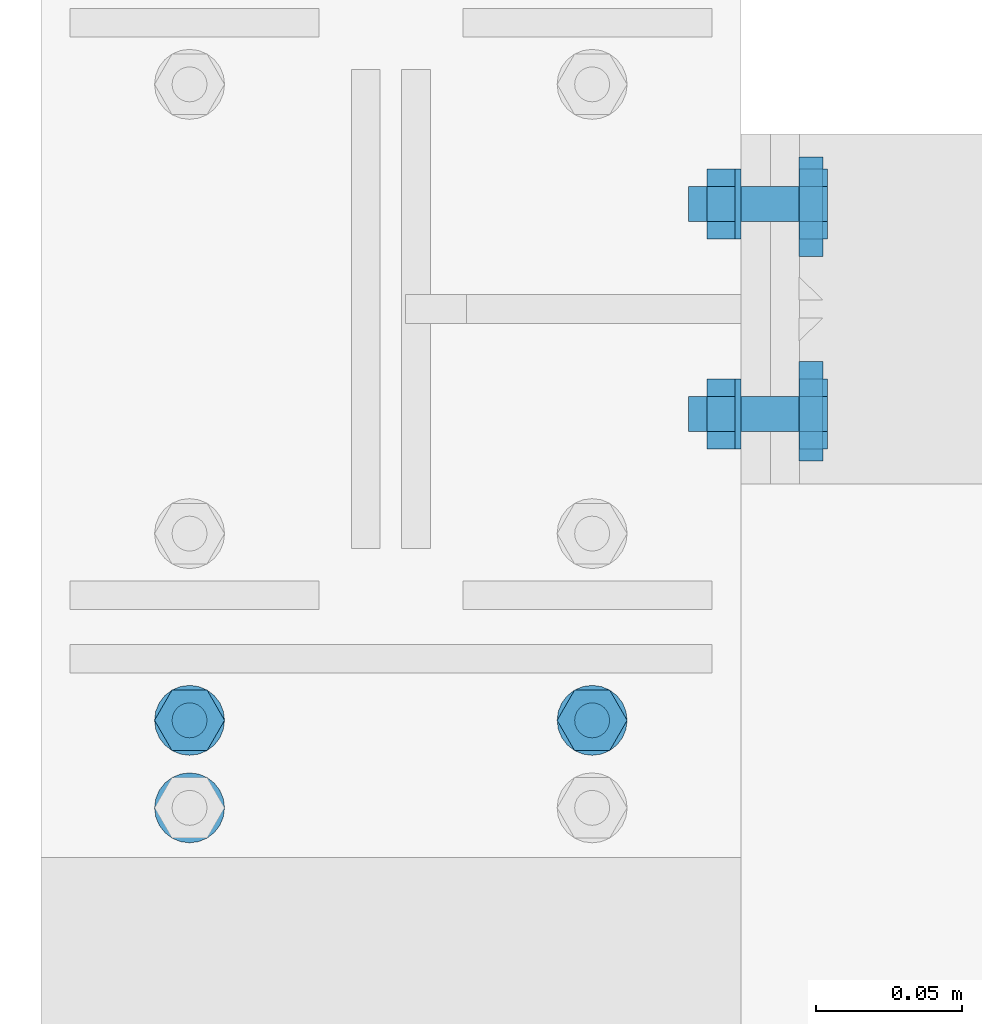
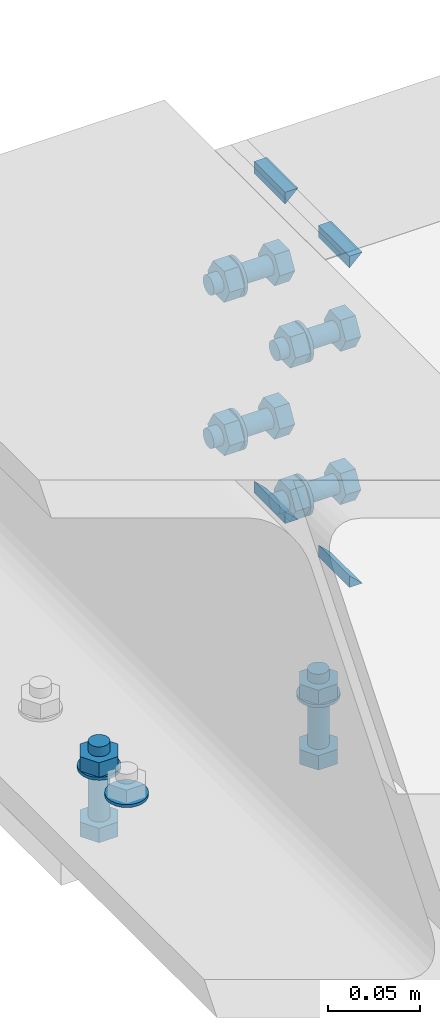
# One storey, part 42 of 66: 25 mechanical fasteners, 8 fasteners.
"""IFC4 building model written with IfcOpenShell, lengths in metres."""

from ifc_helpers import new_model, si_unit, frame, origin_with_axes, place, context, project, spatial, polyline, outline, extrude, type_object, element, save


model = new_model("IFC4")

# Units and contexts
model_context = context("Model", 3, precision=1e-05, world=origin_with_axes())
ifc_project = project(units=[si_unit("LENGTHUNIT", "METRE"), si_unit("AREAUNIT", "SQUARE_METRE"), si_unit("VOLUMEUNIT", "CUBIC_METRE"), si_unit("MASSUNIT", "GRAM", prefix="KILO"), si_unit("TIMEUNIT", "SECOND"), si_unit("PLANEANGLEUNIT", "RADIAN"), si_unit("SOLIDANGLEUNIT", "STERADIAN"), si_unit("THERMODYNAMICTEMPERATUREUNIT", "DEGREE_CELSIUS")], contexts=[model_context])

# Site, building, storey
placement_1 = place(None, origin_with_axes())
site = spatial("IfcSite", under=ifc_project, at=placement_1, Name="Italia", CompositionType="ELEMENT")
building = spatial("IfcBuilding", under=site, at=placement_1, Name="Uffici", CompositionType="ELEMENT")
storey_placement = place(None, frame((0.0, 0.0, 3.299999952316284), z_axis=(0.0, 0.0, 1.0), x_axis=(1.0, 0.0, 0.0)))
storey = spatial("IfcBuildingStorey", under=building, at=storey_placement, Name="Storey 1", CompositionType="ELEMENT", Elevation=3.299999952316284)

# Mechanical fasteners
mechanical_fastener_type_1 = type_object("IfcMechanicalFastenerType", Name="Collegamenti 0111_0011 0112_0012 0113_0013 0114_0014 0115_0015", PredefinedType="BOLT")
placement_2 = place(placement_1, origin_with_axes())
mechanical_fastener_1_placement = place(placement_2, origin_with_axes())
element("IfcMechanicalFastener", 1, at=mechanical_fastener_1_placement, inside=storey, type_object=mechanical_fastener_type_1, Name="Collegamenti 0111_0011 0112_0012 0113_0013 0114_0014 0115_0015", NominalDiameter=0.024, context=model_context, shape_type="SweptSolid", body=[
    extrude(outline(polyline([(0.0, 0.0), (-0.000409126, -0.00310583), (-0.00160789, -0.006), (-0.00351477, -0.00848528), (-0.00600004, -0.0103923), (-0.00889444, -0.0115911), (-0.0120001, -0.012), (-0.0151057, -0.0115911), (-0.0180001, -0.0103923), (-0.0204854, -0.00848528), (-0.0223923, -0.006), (-0.023591, -0.00310583), (-0.0240002, 0.0), (-0.023591, 0.00310583), (-0.0223923, 0.006), (-0.0204854, 0.00848528), (-0.0180001, 0.0103923), (-0.0151057, 0.0115911), (-0.0120001, 0.012), (-0.00889444, 0.0115911), (-0.00600004, 0.0103923), (-0.00351477, 0.00848528), (-0.00160789, 0.006), (-0.000409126, 0.00310583), (0.0, 0.0)])), frame((-0.069, 5.231, 3.079), z_axis=(0.0, 0.0, -1.0), x_axis=(0.0, 1.0, 0.0)), (0.0, 0.0, 1.0), 0.00200009),
])
mechanical_fastener_type_2 = type_object("IfcMechanicalFastenerType", Name="Collegamenti 0111_0011 0112_0012 0113_0013 0114_0014 0115_0015", PredefinedType="BOLT")
mechanical_fastener_2_placement = place(placement_2, origin_with_axes())
element("IfcMechanicalFastener", 2, at=mechanical_fastener_2_placement, inside=storey, type_object=mechanical_fastener_type_2, Name="Collegamenti 0111_0011 0112_0012 0113_0013 0114_0014 0115_0015", NominalDiameter=0.0119999, context=model_context, shape_type="SweptSolid", body=[
    extrude(outline(polyline([(0.0, 0.0), (0.0, 0.012), (0.0103927, 0.018), (0.0207849, 0.012), (0.0207849, 0.0), (0.0103927, -0.006), (0.0, 0.0)])), frame((0.063, 5.23861, 3.045), z_axis=(0.0, 0.0, -1.0), x_axis=(0.0, 1.0, 0.0)), (0.0, 0.0, 1.0), 0.00959992),
])
mechanical_fastener_type_3 = type_object("IfcMechanicalFastenerType", Name="Collegamenti 0111_0011 0112_0012 0113_0013 0114_0014 0115_0015", PredefinedType="BOLT")
mechanical_fastener_3_placement = place(placement_2, origin_with_axes())
element("IfcMechanicalFastener", 3, at=mechanical_fastener_3_placement, inside=storey, type_object=mechanical_fastener_type_3, Name="Collegamenti 0111_0011 0112_0012 0113_0013 0114_0014 0115_0015", NominalDiameter=0.012, context=model_context, shape_type="SweptSolid", body=[
    extrude(outline(polyline([(0.0, 0.0), (-0.000204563, -0.00155292), (-0.000803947, -0.003), (-0.00175762, -0.00424264), (-0.00300026, -0.00519615), (-0.00444698, -0.00579555), (-0.00600004, -0.006), (-0.0075531, -0.00579555), (-0.00899982, -0.00519615), (-0.0102425, -0.00424264), (-0.0111961, -0.003), (-0.0117955, -0.00155292), (-0.0120001, 0.0), (-0.0117955, 0.00155292), (-0.0111961, 0.003), (-0.0102425, 0.00424264), (-0.00899982, 0.00519615), (-0.0075531, 0.00579555), (-0.00600004, 0.006), (-0.00444698, 0.00579555), (-0.00300026, 0.00519615), (-0.00175762, 0.00424264), (-0.000803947, 0.003), (-0.000204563, 0.00155291), (0.0, 0.0)])), frame((0.069, 5.255, 3.095), z_axis=(0.0, 0.0, -1.0), x_axis=(0.0, 1.0, 0.0)), (0.0, 0.0, 1.0), 0.0500002),
])
mechanical_fastener_type_4 = type_object("IfcMechanicalFastenerType", Name="Collegamenti 0111_0011 0112_0012 0113_0013 0114_0014 0115_0015", PredefinedType="BOLT")
mechanical_fastener_4_placement = place(placement_2, origin_with_axes())
element("IfcMechanicalFastener", 4, at=mechanical_fastener_4_placement, inside=storey, type_object=mechanical_fastener_type_4, Name="Collegamenti 0111_0011 0112_0012 0113_0013 0114_0014 0115_0015", NominalDiameter=0.0119999, context=model_context, shape_type="SweptSolid", body=[
    extrude(outline(polyline([(0.0, 0.0), (0.0, 0.012), (0.0103927, 0.018), (0.0207849, 0.012), (0.0207849, 0.0), (0.0103927, -0.006), (0.0, 0.0)])), frame((0.063, 5.23861, 3.0886), z_axis=(0.0, 0.0, -1.0), x_axis=(0.0, 1.0, 0.0)), (0.0, 0.0, 1.0), 0.00959992),
])
mechanical_fastener_type_5 = type_object("IfcMechanicalFastenerType", Name="Collegamenti 0111_0011 0112_0012 0113_0013 0114_0014 0115_0015", PredefinedType="BOLT")
mechanical_fastener_5_placement = place(placement_2, origin_with_axes())
element("IfcMechanicalFastener", 5, at=mechanical_fastener_5_placement, inside=storey, type_object=mechanical_fastener_type_5, Name="Collegamenti 0111_0011 0112_0012 0113_0013 0114_0014 0115_0015", NominalDiameter=0.024, context=model_context, shape_type="SweptSolid", body=[
    extrude(outline(polyline([(0.0, 0.0), (-0.000409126, -0.00310583), (-0.00160789, -0.006), (-0.00351477, -0.00848528), (-0.00600004, -0.0103923), (-0.00889444, -0.0115911), (-0.0120001, -0.012), (-0.0151057, -0.0115911), (-0.0180001, -0.0103923), (-0.0204854, -0.00848528), (-0.0223923, -0.006), (-0.023591, -0.00310583), (-0.0240002, 0.0), (-0.023591, 0.00310583), (-0.0223923, 0.006), (-0.0204854, 0.00848528), (-0.0180001, 0.0103923), (-0.0151057, 0.0115911), (-0.0120001, 0.012), (-0.00889444, 0.0115911), (-0.00600004, 0.0103923), (-0.00351477, 0.00848528), (-0.00160789, 0.006), (-0.000409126, 0.00310583), (0.0, 0.0)])), frame((0.069, 5.261, 3.079), z_axis=(0.0, 0.0, -1.0), x_axis=(0.0, 1.0, 0.0)), (0.0, 0.0, 1.0), 0.00200009),
])
mechanical_fastener_type_6 = type_object("IfcMechanicalFastenerType", Name="Collegamenti 0111_0011 0112_0012 0113_0013 0114_0014 0115_0015", PredefinedType="BOLT")
mechanical_fastener_6_placement = place(placement_2, origin_with_axes())
element("IfcMechanicalFastener", 6, at=mechanical_fastener_6_placement, inside=storey, type_object=mechanical_fastener_type_6, Name="Collegamenti 0111_0011 0112_0012 0113_0013 0114_0014 0115_0015", NominalDiameter=0.0119999, context=model_context, shape_type="SweptSolid", body=[
    extrude(outline(polyline([(0.0, 0.0), (0.0, 0.012), (0.0103927, 0.018), (0.0207849, 0.012), (0.0207849, 0.0), (0.0103927, -0.006), (0.0, 0.0)])), frame((-0.075, 5.23861, 3.045), z_axis=(0.0, 0.0, -1.0), x_axis=(0.0, 1.0, 0.0)), (0.0, 0.0, 1.0), 0.00959992),
])
mechanical_fastener_type_7 = type_object("IfcMechanicalFastenerType", Name="Collegamenti 0111_0011 0112_0012 0113_0013 0114_0014 0115_0015", PredefinedType="BOLT")
mechanical_fastener_7_placement = place(placement_2, origin_with_axes())
element("IfcMechanicalFastener", 7, at=mechanical_fastener_7_placement, inside=storey, type_object=mechanical_fastener_type_7, Name="Collegamenti 0111_0011 0112_0012 0113_0013 0114_0014 0115_0015", NominalDiameter=0.012, context=model_context, shape_type="SweptSolid", body=[
    extrude(outline(polyline([(0.0, 0.0), (-0.000204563, -0.00155292), (-0.000803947, -0.003), (-0.00175762, -0.00424264), (-0.00300026, -0.00519615), (-0.00444698, -0.00579555), (-0.00600004, -0.006), (-0.0075531, -0.00579555), (-0.00899982, -0.00519615), (-0.0102425, -0.00424264), (-0.0111961, -0.003), (-0.0117955, -0.00155292), (-0.0120001, 0.0), (-0.0117955, 0.00155292), (-0.0111961, 0.003), (-0.0102425, 0.00424264), (-0.00899982, 0.00519615), (-0.0075531, 0.00579555), (-0.00600004, 0.006), (-0.00444698, 0.00579555), (-0.00300026, 0.00519615), (-0.00175762, 0.00424264), (-0.000803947, 0.003), (-0.000204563, 0.00155291), (0.0, 0.0)])), frame((-0.069, 5.255, 3.095), z_axis=(0.0, 0.0, -1.0), x_axis=(0.0, 1.0, 0.0)), (0.0, 0.0, 1.0), 0.0500002),
])
mechanical_fastener_type_8 = type_object("IfcMechanicalFastenerType", Name="Collegamenti 0111_0011 0112_0012 0113_0013 0114_0014 0115_0015", PredefinedType="BOLT")
mechanical_fastener_8_placement = place(placement_2, origin_with_axes())
element("IfcMechanicalFastener", 8, at=mechanical_fastener_8_placement, inside=storey, type_object=mechanical_fastener_type_8, Name="Collegamenti 0111_0011 0112_0012 0113_0013 0114_0014 0115_0015", NominalDiameter=0.0119999, context=model_context, shape_type="SweptSolid", body=[
    extrude(outline(polyline([(0.0, 0.0), (0.0, 0.012), (0.0103927, 0.018), (0.0207849, 0.012), (0.0207849, 0.0), (0.0103927, -0.006), (0.0, 0.0)])), frame((-0.075, 5.23861, 3.0886), z_axis=(0.0, 0.0, -1.0), x_axis=(0.0, 1.0, 0.0)), (0.0, 0.0, 1.0), 0.00959992),
])
mechanical_fastener_type_9 = type_object("IfcMechanicalFastenerType", Name="Collegamenti 0111_0011 0112_0012 0113_0013 0114_0014 0115_0015", PredefinedType="BOLT")
mechanical_fastener_9_placement = place(placement_2, origin_with_axes())
element("IfcMechanicalFastener", 9, at=mechanical_fastener_9_placement, inside=storey, type_object=mechanical_fastener_type_9, Name="Collegamenti 0111_0011 0112_0012 0113_0013 0114_0014 0115_0015", NominalDiameter=0.024, context=model_context, shape_type="SweptSolid", body=[
    extrude(outline(polyline([(0.0, 0.0), (-0.000409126, -0.00310583), (-0.00160789, -0.006), (-0.00351477, -0.00848528), (-0.00600004, -0.0103923), (-0.00889444, -0.0115911), (-0.0120001, -0.012), (-0.0151057, -0.0115911), (-0.0180001, -0.0103923), (-0.0204854, -0.00848528), (-0.0223923, -0.006), (-0.023591, -0.00310583), (-0.0240002, 0.0), (-0.023591, 0.00310583), (-0.0223923, 0.006), (-0.0204854, 0.00848528), (-0.0180001, 0.0103923), (-0.0151057, 0.0115911), (-0.0120001, 0.012), (-0.00889444, 0.0115911), (-0.00600004, 0.0103923), (-0.00351477, 0.00848528), (-0.00160789, 0.006), (-0.000409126, 0.00310583), (0.0, 0.0)])), frame((-0.069, 5.261, 3.079), z_axis=(0.0, 0.0, -1.0), x_axis=(0.0, 1.0, 0.0)), (0.0, 0.0, 1.0), 0.00200009),
])

# Fasteners
fastener_type_1 = type_object("IfcFastenerType", Name="Collegamento 0111_0112", PredefinedType="WELD")
fastener_1_placement = place(placement_2, origin_with_axes())
element("IfcFastener", 10, at=fastener_1_placement, inside=storey, type_object=fastener_type_1, Name="Collegamento 0111_0112", context=model_context, shape_type="SweptSolid", body=[
    extrude(outline(polyline([(0.0, 0.0), (-0.00817336, 0.00792813), (0.0, 0.00792813), (0.0, 0.0)])), frame((0.13995, 5.33795, 3.28232), z_axis=(0.0, 1.0, 0.0), x_axis=(-1.0, 0.0, 0.0)), (0.0, 0.0, 1.0), 0.0340004),
])
fastener_type_2 = type_object("IfcFastenerType", Name="Collegamento 0111_0112", PredefinedType="WELD")
fastener_2_placement = place(placement_2, origin_with_axes())
element("IfcFastener", 11, at=fastener_2_placement, inside=storey, type_object=fastener_type_2, Name="Collegamento 0111_0112", context=model_context, shape_type="SweptSolid", body=[
    extrude(outline(polyline([(0.0, 0.0), (0.00817336, -0.00792813), (0.0, -0.00792813), (0.0, 0.0)])), frame((0.13995, 5.37195, 3.07768), z_axis=(0.0, -1.0, 0.0), x_axis=(1.0, 0.0, 0.0)), (0.0, 0.0, 1.0), 0.0340004),
])
fastener_type_3 = type_object("IfcFastenerType", Name="Collegamento 0111_0112", PredefinedType="WELD")
fastener_3_placement = place(placement_2, origin_with_axes())
element("IfcFastener", 12, at=fastener_3_placement, inside=storey, type_object=fastener_type_3, Name="Collegamento 0111_0112", context=model_context, shape_type="SweptSolid", body=[
    extrude(outline(polyline([(0.0, 0.0), (0.00817336, -0.00792813), (0.0, -0.00792813), (0.0, 0.0)])), frame((0.13995, 5.44205, 3.07768), z_axis=(0.0, -1.0, 0.0), x_axis=(1.0, 0.0, 0.0)), (0.0, 0.0, 1.0), 0.0340004),
])
fastener_type_4 = type_object("IfcFastenerType", Name="Collegamento 0111_0112", PredefinedType="WELD")
fastener_4_placement = place(placement_2, origin_with_axes())
element("IfcFastener", 13, at=fastener_4_placement, inside=storey, type_object=fastener_type_4, Name="Collegamento 0111_0112", context=model_context, shape_type="SweptSolid", body=[
    extrude(outline(polyline([(0.0, 0.0), (-0.00817336, 0.00792813), (0.0, 0.00792813), (0.0, 0.0)])), frame((0.13995, 5.40805, 3.28232), z_axis=(0.0, 1.0, 0.0), x_axis=(-1.0, 0.0, 0.0)), (0.0, 0.0, 1.0), 0.0340004),
])
fastener_type_5 = type_object("IfcFastenerType", Name="Collegamento 0111_0112", PredefinedType="WELD")
fastener_5_placement = place(placement_2, origin_with_axes())
element("IfcFastener", 14, at=fastener_5_placement, inside=storey, type_object=fastener_type_5, Name="Collegamento 0111_0112", context=model_context, shape_type="SweptSolid", body=[
    extrude(outline(polyline([(0.0, 0.0), (-0.00817336, 0.00792813), (0.0, 0.00792813), (0.0, 0.0)])), frame((0.13995, 5.33795, 3.28232), z_axis=(0.0, 1.0, 0.0), x_axis=(-1.0, 0.0, 0.0)), (0.0, 0.0, 1.0), 0.0340004),
])
fastener_type_6 = type_object("IfcFastenerType", Name="Collegamento 0111_0112", PredefinedType="WELD")
fastener_6_placement = place(placement_2, origin_with_axes())
element("IfcFastener", 15, at=fastener_6_placement, inside=storey, type_object=fastener_type_6, Name="Collegamento 0111_0112", context=model_context, shape_type="SweptSolid", body=[
    extrude(outline(polyline([(0.0, 0.0), (0.00817336, -0.00792813), (0.0, -0.00792813), (0.0, 0.0)])), frame((0.13995, 5.37195, 3.07768), z_axis=(0.0, -1.0, 0.0), x_axis=(1.0, 0.0, 0.0)), (0.0, 0.0, 1.0), 0.0340004),
])
fastener_type_7 = type_object("IfcFastenerType", Name="Collegamento 0111_0112", PredefinedType="WELD")
fastener_7_placement = place(placement_2, origin_with_axes())
element("IfcFastener", 16, at=fastener_7_placement, inside=storey, type_object=fastener_type_7, Name="Collegamento 0111_0112", context=model_context, shape_type="SweptSolid", body=[
    extrude(outline(polyline([(0.0, 0.0), (0.00817336, -0.00792813), (0.0, -0.00792813), (0.0, 0.0)])), frame((0.13995, 5.44205, 3.07768), z_axis=(0.0, -1.0, 0.0), x_axis=(1.0, 0.0, 0.0)), (0.0, 0.0, 1.0), 0.0340004),
])
fastener_type_8 = type_object("IfcFastenerType", Name="Collegamento 0111_0112", PredefinedType="WELD")
fastener_8_placement = place(placement_2, origin_with_axes())
element("IfcFastener", 17, at=fastener_8_placement, inside=storey, type_object=fastener_type_8, Name="Collegamento 0111_0112", context=model_context, shape_type="SweptSolid", body=[
    extrude(outline(polyline([(0.0, 0.0), (-0.00817336, 0.00792813), (0.0, 0.00792813), (0.0, 0.0)])), frame((0.13995, 5.40805, 3.28232), z_axis=(0.0, 1.0, 0.0), x_axis=(-1.0, 0.0, 0.0)), (0.0, 0.0, 1.0), 0.0340004),
])

# Mechanical fasteners
mechanical_fastener_type_10 = type_object("IfcMechanicalFastenerType", Name="Collegamento 0111_0112", PredefinedType="BOLT")
mechanical_fastener_10_placement = place(placement_2, origin_with_axes())
element("IfcMechanicalFastener", 18, at=mechanical_fastener_10_placement, inside=storey, type_object=mechanical_fastener_type_10, Name="Collegamento 0111_0112", NominalDiameter=0.0119996, context=model_context, shape_type="SweptSolid", body=[
    extrude(outline(polyline([(0.0, 0.0), (-0.0119996, 0.0), (-0.0179996, 0.0103922), (-0.0119996, 0.0207846), (0.0, 0.0207846), (0.00600004, 0.0103922), (0.0, 0.0)])), frame((0.14, 5.36, 3.11861), z_axis=(1.0, 0.0, 0.0), x_axis=(0.0, 1.0, 0.0)), (0.0, 0.0, 1.0), 0.0096),
])
mechanical_fastener_type_11 = type_object("IfcMechanicalFastenerType", Name="Collegamento 0111_0112", PredefinedType="BOLT")
mechanical_fastener_11_placement = place(placement_2, origin_with_axes())
element("IfcMechanicalFastener", 19, at=mechanical_fastener_11_placement, inside=storey, type_object=mechanical_fastener_type_11, Name="Collegamento 0111_0112", NominalDiameter=0.012, context=model_context, shape_type="SweptSolid", body=[
    extrude(outline(polyline([(0.0, 0.0), (-0.000204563, -0.00155282), (-0.000803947, -0.00300002), (-0.00175762, -0.00424266), (-0.00300026, -0.00519609), (-0.00444698, -0.00579548), (-0.00600004, -0.00600004), (-0.0075531, -0.00579548), (-0.00899982, -0.00519609), (-0.0102425, -0.00424266), (-0.0111961, -0.00300002), (-0.0117955, -0.00155282), (-0.0120001, 0.0), (-0.0117955, 0.00155282), (-0.0111961, 0.00300002), (-0.0102425, 0.00424266), (-0.00899982, 0.00519609), (-0.0075531, 0.00579548), (-0.00600004, 0.00600004), (-0.00444698, 0.00579548), (-0.00300026, 0.00519609), (-0.00175762, 0.00424266), (-0.000803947, 0.00300002), (-0.000204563, 0.00155282), (0.0, 0.0)])), frame((0.102, 5.36, 3.129), z_axis=(1.0, 0.0, 0.0), x_axis=(0.0, 1.0, 0.0)), (0.0, 0.0, 1.0), 0.038),
])
mechanical_fastener_type_12 = type_object("IfcMechanicalFastenerType", Name="Collegamento 0111_0112", PredefinedType="BOLT")
mechanical_fastener_12_placement = place(placement_2, origin_with_axes())
element("IfcMechanicalFastener", 20, at=mechanical_fastener_12_placement, inside=storey, type_object=mechanical_fastener_type_12, Name="Collegamento 0111_0112", NominalDiameter=0.0119996, context=model_context, shape_type="SweptSolid", body=[
    extrude(outline(polyline([(0.0, 0.0), (-0.0119996, 0.0), (-0.0179996, 0.0103922), (-0.0119996, 0.0207846), (0.0, 0.0207846), (0.00600004, 0.0103922), (0.0, 0.0)])), frame((0.1084, 5.36, 3.11861), z_axis=(1.0, 0.0, 0.0), x_axis=(0.0, 1.0, 0.0)), (0.0, 0.0, 1.0), 0.00960001),
])
mechanical_fastener_type_13 = type_object("IfcMechanicalFastenerType", Name="Collegamento 0111_0112", PredefinedType="BOLT")
mechanical_fastener_13_placement = place(placement_2, origin_with_axes())
element("IfcMechanicalFastener", 21, at=mechanical_fastener_13_placement, inside=storey, type_object=mechanical_fastener_type_13, Name="Collegamento 0111_0112", NominalDiameter=0.024, context=model_context, shape_type="SweptSolid", body=[
    extrude(outline(polyline([(0.0, 0.0), (-0.000409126, -0.00310588), (-0.00160789, -0.00600004), (-0.00351477, -0.00848532), (-0.00600004, -0.0103922), (-0.00889444, -0.0115912), (-0.0120001, -0.0120001), (-0.0151057, -0.0115912), (-0.0180001, -0.0103922), (-0.0204854, -0.00848532), (-0.0223923, -0.00600004), (-0.023591, -0.00310588), (-0.0240002, 0.0), (-0.023591, 0.00310588), (-0.0223923, 0.00600004), (-0.0204854, 0.00848532), (-0.0180001, 0.0103922), (-0.0151057, 0.0115912), (-0.0120001, 0.0120001), (-0.00889444, 0.0115912), (-0.00600004, 0.0103922), (-0.00351477, 0.00848532), (-0.00160789, 0.00600004), (-0.000409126, 0.00310588), (0.0, 0.0)])), frame((0.118, 5.366, 3.129), z_axis=(1.0, 0.0, 0.0), x_axis=(0.0, 1.0, 0.0)), (0.0, 0.0, 1.0), 0.002),
])
mechanical_fastener_type_14 = type_object("IfcMechanicalFastenerType", Name="Collegamento 0111_0112", PredefinedType="BOLT")
mechanical_fastener_14_placement = place(placement_2, origin_with_axes())
element("IfcMechanicalFastener", 22, at=mechanical_fastener_14_placement, inside=storey, type_object=mechanical_fastener_type_14, Name="Collegamento 0111_0112", NominalDiameter=0.0119996, context=model_context, shape_type="SweptSolid", body=[
    extrude(outline(polyline([(0.0, 0.0), (-0.0119996, 0.0), (-0.0179996, 0.0103922), (-0.0119996, 0.0207846), (0.0, 0.0207846), (0.00600004, 0.0103922), (0.0, 0.0)])), frame((0.14, 5.432, 3.11861), z_axis=(1.0, 0.0, 0.0), x_axis=(0.0, 1.0, 0.0)), (0.0, 0.0, 1.0), 0.0096),
])
mechanical_fastener_type_15 = type_object("IfcMechanicalFastenerType", Name="Collegamento 0111_0112", PredefinedType="BOLT")
mechanical_fastener_15_placement = place(placement_2, origin_with_axes())
element("IfcMechanicalFastener", 23, at=mechanical_fastener_15_placement, inside=storey, type_object=mechanical_fastener_type_15, Name="Collegamento 0111_0112", NominalDiameter=0.012, context=model_context, shape_type="SweptSolid", body=[
    extrude(outline(polyline([(0.0, 0.0), (-0.000204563, -0.00155282), (-0.000803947, -0.00300002), (-0.00175762, -0.00424266), (-0.00300026, -0.00519609), (-0.00444698, -0.00579548), (-0.00600004, -0.00600004), (-0.0075531, -0.00579548), (-0.00899982, -0.00519609), (-0.0102425, -0.00424266), (-0.0111961, -0.00300002), (-0.0117955, -0.00155282), (-0.0120001, 0.0), (-0.0117955, 0.00155282), (-0.0111961, 0.00300002), (-0.0102425, 0.00424266), (-0.00899982, 0.00519609), (-0.0075531, 0.00579548), (-0.00600004, 0.00600004), (-0.00444698, 0.00579548), (-0.00300026, 0.00519609), (-0.00175762, 0.00424266), (-0.000803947, 0.00300002), (-0.000204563, 0.00155282), (0.0, 0.0)])), frame((0.102, 5.432, 3.129), z_axis=(1.0, 0.0, 0.0), x_axis=(0.0, 1.0, 0.0)), (0.0, 0.0, 1.0), 0.038),
])
mechanical_fastener_type_16 = type_object("IfcMechanicalFastenerType", Name="Collegamento 0111_0112", PredefinedType="BOLT")
mechanical_fastener_16_placement = place(placement_2, origin_with_axes())
element("IfcMechanicalFastener", 24, at=mechanical_fastener_16_placement, inside=storey, type_object=mechanical_fastener_type_16, Name="Collegamento 0111_0112", NominalDiameter=0.0119996, context=model_context, shape_type="SweptSolid", body=[
    extrude(outline(polyline([(0.0, 0.0), (-0.0119996, 0.0), (-0.0179996, 0.0103922), (-0.0119996, 0.0207846), (0.0, 0.0207846), (0.00600004, 0.0103922), (0.0, 0.0)])), frame((0.1084, 5.432, 3.11861), z_axis=(1.0, 0.0, 0.0), x_axis=(0.0, 1.0, 0.0)), (0.0, 0.0, 1.0), 0.00960001),
])
mechanical_fastener_type_17 = type_object("IfcMechanicalFastenerType", Name="Collegamento 0111_0112", PredefinedType="BOLT")
mechanical_fastener_17_placement = place(placement_2, origin_with_axes())
element("IfcMechanicalFastener", 25, at=mechanical_fastener_17_placement, inside=storey, type_object=mechanical_fastener_type_17, Name="Collegamento 0111_0112", NominalDiameter=0.024, context=model_context, shape_type="SweptSolid", body=[
    extrude(outline(polyline([(0.0, 0.0), (-0.000409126, -0.00310588), (-0.00160789, -0.00600004), (-0.00351477, -0.00848532), (-0.00600004, -0.0103922), (-0.00889444, -0.0115912), (-0.0120001, -0.0120001), (-0.0151057, -0.0115912), (-0.0180001, -0.0103922), (-0.0204854, -0.00848532), (-0.0223923, -0.00600004), (-0.023591, -0.00310588), (-0.0240002, 0.0), (-0.023591, 0.00310588), (-0.0223923, 0.00600004), (-0.0204854, 0.00848532), (-0.0180001, 0.0103922), (-0.0151057, 0.0115912), (-0.0120001, 0.0120001), (-0.00889444, 0.0115912), (-0.00600004, 0.0103922), (-0.00351477, 0.00848532), (-0.00160789, 0.00600004), (-0.000409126, 0.00310588), (0.0, 0.0)])), frame((0.118, 5.438, 3.129), z_axis=(1.0, 0.0, 0.0), x_axis=(0.0, 1.0, 0.0)), (0.0, 0.0, 1.0), 0.002),
])
mechanical_fastener_type_18 = type_object("IfcMechanicalFastenerType", Name="Collegamento 0111_0112", PredefinedType="BOLT")
mechanical_fastener_18_placement = place(placement_2, origin_with_axes())
element("IfcMechanicalFastener", 26, at=mechanical_fastener_18_placement, inside=storey, type_object=mechanical_fastener_type_18, Name="Collegamento 0111_0112", NominalDiameter=0.0119996, context=model_context, shape_type="SweptSolid", body=[
    extrude(outline(polyline([(0.0, 0.0), (-0.0119996, 0.0), (-0.0179996, 0.0103924), (-0.0119996, 0.0207846), (0.0, 0.0207846), (0.00600004, 0.0103924), (0.0, 0.0)])), frame((0.14, 5.36, 3.22061), z_axis=(1.0, 0.0, 0.0), x_axis=(0.0, 1.0, 0.0)), (0.0, 0.0, 1.0), 0.0096),
])
mechanical_fastener_type_19 = type_object("IfcMechanicalFastenerType", Name="Collegamento 0111_0112", PredefinedType="BOLT")
mechanical_fastener_19_placement = place(placement_2, origin_with_axes())
element("IfcMechanicalFastener", 27, at=mechanical_fastener_19_placement, inside=storey, type_object=mechanical_fastener_type_19, Name="Collegamento 0111_0112", NominalDiameter=0.012, context=model_context, shape_type="SweptSolid", body=[
    extrude(outline(polyline([(0.0, 0.0), (-0.000204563, -0.00155282), (-0.000803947, -0.00300002), (-0.00175762, -0.00424266), (-0.00300026, -0.00519609), (-0.00444698, -0.00579548), (-0.00600004, -0.00600004), (-0.0075531, -0.00579548), (-0.00899982, -0.00519609), (-0.0102425, -0.00424266), (-0.0111961, -0.00300002), (-0.0117955, -0.00155282), (-0.0120001, 0.0), (-0.0117955, 0.00155282), (-0.0111961, 0.00300002), (-0.0102425, 0.00424266), (-0.00899982, 0.00519609), (-0.0075531, 0.00579548), (-0.00600004, 0.00600004), (-0.00444698, 0.00579548), (-0.00300026, 0.00519609), (-0.00175762, 0.00424266), (-0.000803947, 0.00300002), (-0.000204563, 0.00155282), (0.0, 0.0)])), frame((0.102, 5.36, 3.231), z_axis=(1.0, 0.0, 0.0), x_axis=(0.0, 1.0, 0.0)), (0.0, 0.0, 1.0), 0.038),
])
mechanical_fastener_type_20 = type_object("IfcMechanicalFastenerType", Name="Collegamento 0111_0112", PredefinedType="BOLT")
mechanical_fastener_20_placement = place(placement_2, origin_with_axes())
element("IfcMechanicalFastener", 28, at=mechanical_fastener_20_placement, inside=storey, type_object=mechanical_fastener_type_20, Name="Collegamento 0111_0112", NominalDiameter=0.0119996, context=model_context, shape_type="SweptSolid", body=[
    extrude(outline(polyline([(0.0, 0.0), (-0.0119996, 0.0), (-0.0179996, 0.0103924), (-0.0119996, 0.0207846), (0.0, 0.0207846), (0.00600004, 0.0103924), (0.0, 0.0)])), frame((0.1084, 5.36, 3.22061), z_axis=(1.0, 0.0, 0.0), x_axis=(0.0, 1.0, 0.0)), (0.0, 0.0, 1.0), 0.00960001),
])
mechanical_fastener_type_21 = type_object("IfcMechanicalFastenerType", Name="Collegamento 0111_0112", PredefinedType="BOLT")
mechanical_fastener_21_placement = place(placement_2, origin_with_axes())
element("IfcMechanicalFastener", 29, at=mechanical_fastener_21_placement, inside=storey, type_object=mechanical_fastener_type_21, Name="Collegamento 0111_0112", NominalDiameter=0.024, context=model_context, shape_type="SweptSolid", body=[
    extrude(outline(polyline([(0.0, 0.0), (-0.000409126, -0.00310588), (-0.00160789, -0.00600004), (-0.00351477, -0.00848532), (-0.00600004, -0.0103922), (-0.00889444, -0.0115912), (-0.0120001, -0.0120001), (-0.0151057, -0.0115912), (-0.0180001, -0.0103922), (-0.0204854, -0.00848532), (-0.0223923, -0.00600004), (-0.023591, -0.00310588), (-0.0240002, 0.0), (-0.023591, 0.00310588), (-0.0223923, 0.00600004), (-0.0204854, 0.00848532), (-0.0180001, 0.0103922), (-0.0151057, 0.0115912), (-0.0120001, 0.0120001), (-0.00889444, 0.0115912), (-0.00600004, 0.0103922), (-0.00351477, 0.00848532), (-0.00160789, 0.00600004), (-0.000409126, 0.00310588), (0.0, 0.0)])), frame((0.118, 5.366, 3.231), z_axis=(1.0, 0.0, 0.0), x_axis=(0.0, 1.0, 0.0)), (0.0, 0.0, 1.0), 0.002),
])
mechanical_fastener_type_22 = type_object("IfcMechanicalFastenerType", Name="Collegamento 0111_0112", PredefinedType="BOLT")
mechanical_fastener_22_placement = place(placement_2, origin_with_axes())
element("IfcMechanicalFastener", 30, at=mechanical_fastener_22_placement, inside=storey, type_object=mechanical_fastener_type_22, Name="Collegamento 0111_0112", NominalDiameter=0.0119996, context=model_context, shape_type="SweptSolid", body=[
    extrude(outline(polyline([(0.0, 0.0), (-0.0119996, 0.0), (-0.0179996, 0.0103924), (-0.0119996, 0.0207846), (0.0, 0.0207846), (0.00600004, 0.0103924), (0.0, 0.0)])), frame((0.14, 5.432, 3.22061), z_axis=(1.0, 0.0, 0.0), x_axis=(0.0, 1.0, 0.0)), (0.0, 0.0, 1.0), 0.0096),
])
mechanical_fastener_type_23 = type_object("IfcMechanicalFastenerType", Name="Collegamento 0111_0112", PredefinedType="BOLT")
mechanical_fastener_23_placement = place(placement_2, origin_with_axes())
element("IfcMechanicalFastener", 31, at=mechanical_fastener_23_placement, inside=storey, type_object=mechanical_fastener_type_23, Name="Collegamento 0111_0112", NominalDiameter=0.012, context=model_context, shape_type="SweptSolid", body=[
    extrude(outline(polyline([(0.0, 0.0), (-0.000204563, -0.00155282), (-0.000803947, -0.00300002), (-0.00175762, -0.00424266), (-0.00300026, -0.00519609), (-0.00444698, -0.00579548), (-0.00600004, -0.00600004), (-0.0075531, -0.00579548), (-0.00899982, -0.00519609), (-0.0102425, -0.00424266), (-0.0111961, -0.00300002), (-0.0117955, -0.00155282), (-0.0120001, 0.0), (-0.0117955, 0.00155282), (-0.0111961, 0.00300002), (-0.0102425, 0.00424266), (-0.00899982, 0.00519609), (-0.0075531, 0.00579548), (-0.00600004, 0.00600004), (-0.00444698, 0.00579548), (-0.00300026, 0.00519609), (-0.00175762, 0.00424266), (-0.000803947, 0.00300002), (-0.000204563, 0.00155282), (0.0, 0.0)])), frame((0.102, 5.432, 3.231), z_axis=(1.0, 0.0, 0.0), x_axis=(0.0, 1.0, 0.0)), (0.0, 0.0, 1.0), 0.038),
])
mechanical_fastener_type_24 = type_object("IfcMechanicalFastenerType", Name="Collegamento 0111_0112", PredefinedType="BOLT")
mechanical_fastener_24_placement = place(placement_2, origin_with_axes())
element("IfcMechanicalFastener", 32, at=mechanical_fastener_24_placement, inside=storey, type_object=mechanical_fastener_type_24, Name="Collegamento 0111_0112", NominalDiameter=0.0119996, context=model_context, shape_type="SweptSolid", body=[
    extrude(outline(polyline([(0.0, 0.0), (-0.0119996, 0.0), (-0.0179996, 0.0103924), (-0.0119996, 0.0207846), (0.0, 0.0207846), (0.00600004, 0.0103924), (0.0, 0.0)])), frame((0.1084, 5.432, 3.22061), z_axis=(1.0, 0.0, 0.0), x_axis=(0.0, 1.0, 0.0)), (0.0, 0.0, 1.0), 0.00960001),
])
mechanical_fastener_type_25 = type_object("IfcMechanicalFastenerType", Name="Collegamento 0111_0112", PredefinedType="BOLT")
mechanical_fastener_25_placement = place(placement_2, origin_with_axes())
element("IfcMechanicalFastener", 33, at=mechanical_fastener_25_placement, inside=storey, type_object=mechanical_fastener_type_25, Name="Collegamento 0111_0112", NominalDiameter=0.024, context=model_context, shape_type="SweptSolid", body=[
    extrude(outline(polyline([(0.0, 0.0), (-0.000409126, -0.00310588), (-0.00160789, -0.00600004), (-0.00351477, -0.00848532), (-0.00600004, -0.0103922), (-0.00889444, -0.0115912), (-0.0120001, -0.0120001), (-0.0151057, -0.0115912), (-0.0180001, -0.0103922), (-0.0204854, -0.00848532), (-0.0223923, -0.00600004), (-0.023591, -0.00310588), (-0.0240002, 0.0), (-0.023591, 0.00310588), (-0.0223923, 0.00600004), (-0.0204854, 0.00848532), (-0.0180001, 0.0103922), (-0.0151057, 0.0115912), (-0.0120001, 0.0120001), (-0.00889444, 0.0115912), (-0.00600004, 0.0103922), (-0.00351477, 0.00848532), (-0.00160789, 0.00600004), (-0.000409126, 0.00310588), (0.0, 0.0)])), frame((0.118, 5.438, 3.231), z_axis=(1.0, 0.0, 0.0), x_axis=(0.0, 1.0, 0.0)), (0.0, 0.0, 1.0), 0.002),
])

save(model, "model.ifc")
